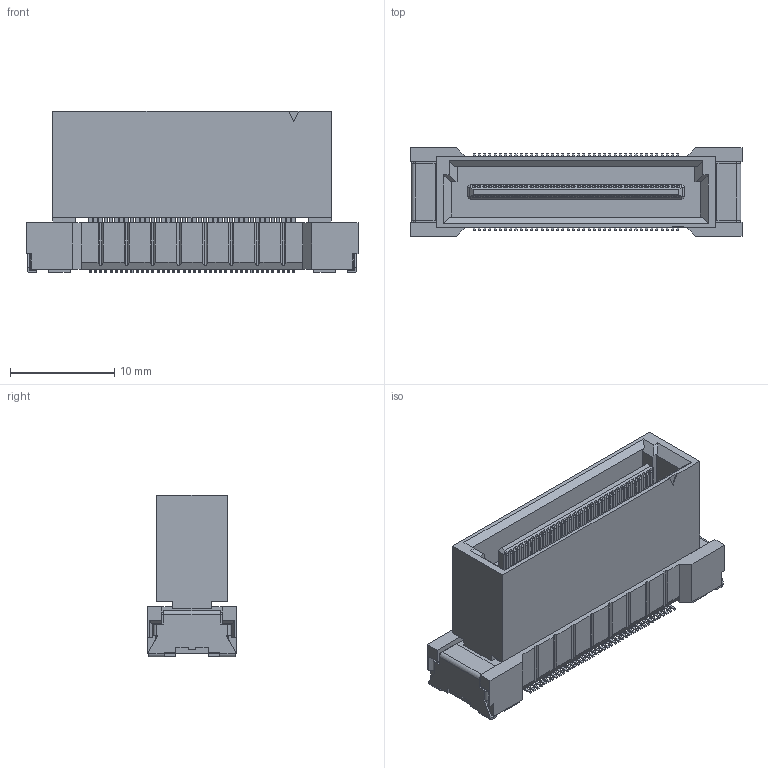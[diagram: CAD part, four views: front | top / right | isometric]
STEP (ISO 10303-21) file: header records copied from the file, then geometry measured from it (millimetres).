
FILE_DESCRIPTION(('Creo Elements/Direct Modeling STEP Export'),'2;1');
FILE_NAME('P3E104_DT00-080FS-10-T.stp','2022-02-25T17:38:39',(''),(''),'Creo Elements/Direct Modeling STEP processor for AP214 (Solid Model)','Creo Elements/Direct Modeling 20.4A 18-Oct-2021 (C) Parametric Technology GmbH','');
FILE_SCHEMA(('AUTOMOTIVE_DESIGN { 1 0 10303 214 1 1 1 1 }'));
Products named in the file (2): P3E104_DT00-080FS-10-T
Assembly tree (1 placements, depth 2):
  P3E104_DT00-080FS-10-T
    P3E104_DT00-080FS-10-T
Bounding box: 31.8 x 8.5 x 15.5 mm (x, y, z)
Volume: 2492.5 mm3; surface area: 2457.7 mm2
Topology: 1 solids, 1 shells, 2317 faces, 6509 edges, 4274 vertices
Faces by surface type: plane 2131, cylinder 186
Entity records: 72142 total; most frequent: ORIENTED_EDGE 13018, CARTESIAN_POINT 12766, DIRECTION 11097, EDGE_CURVE 6509, VECTOR 5887, LINE 5887, VERTEX_POINT 4274, AXIS2_PLACEMENT_3D 2605
